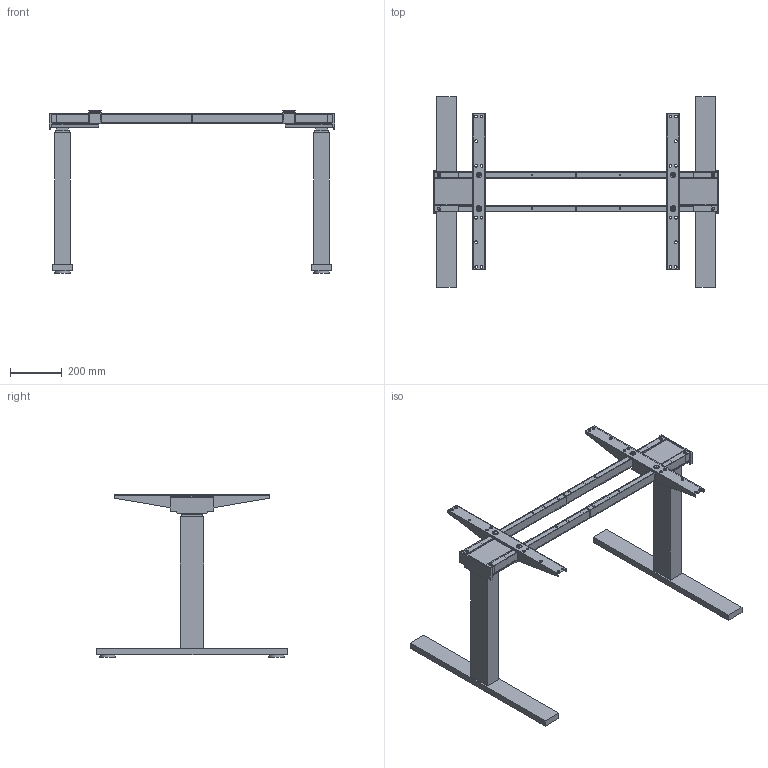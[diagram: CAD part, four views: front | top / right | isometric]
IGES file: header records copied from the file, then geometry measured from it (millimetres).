
Start section: Data from Parasolid IGES Translator 20.0.26, Copyright(c) 2006 Siemens P LM Software. All Rights Reserved.
Global section: file name: 9309760.igs; native system: By Siemens PLM Incorporated; preprocessor: XPlus GENERIC/IGES 20.0.26; author: Noname; organization: Noname; date: 20220302.131841; units: millimetre
Bounding box: 1100 x 736 x 625 mm (x, y, z)
Surface area: 1938427.8 mm2 (no closed solid volume)
Topology: 0 solids, 0 shells, 402 faces, 1972 edges, 1808 vertices
Faces by surface type: extrusion 284, revolution 118
